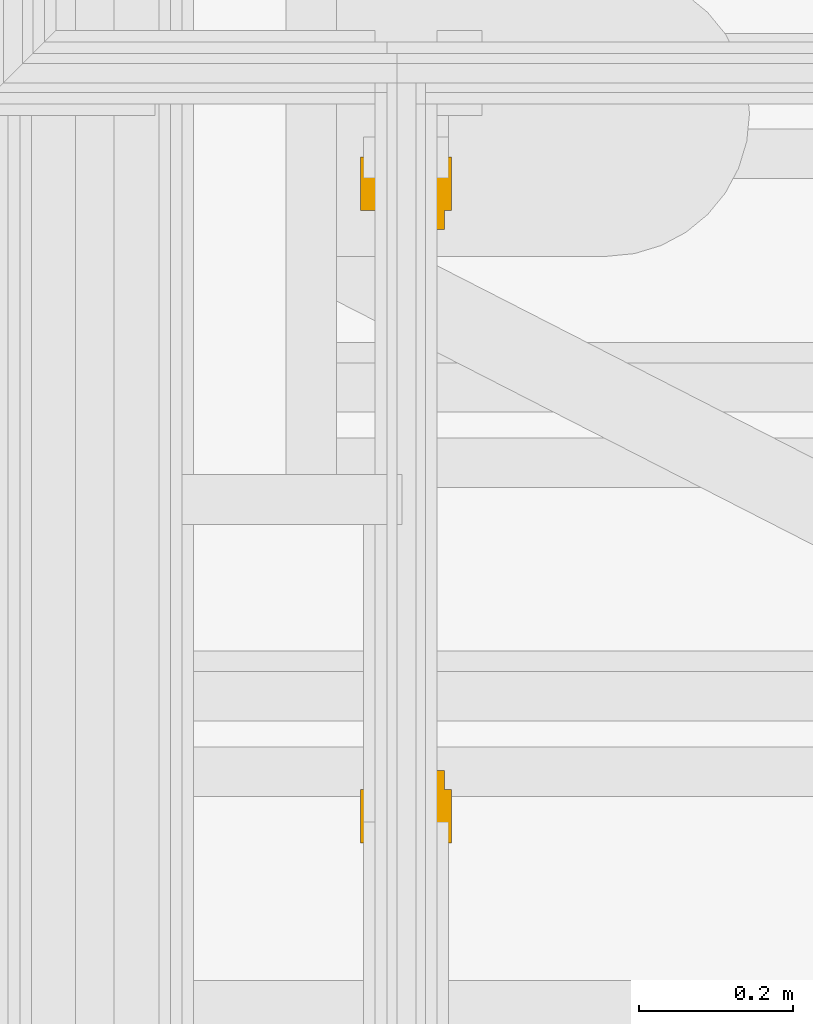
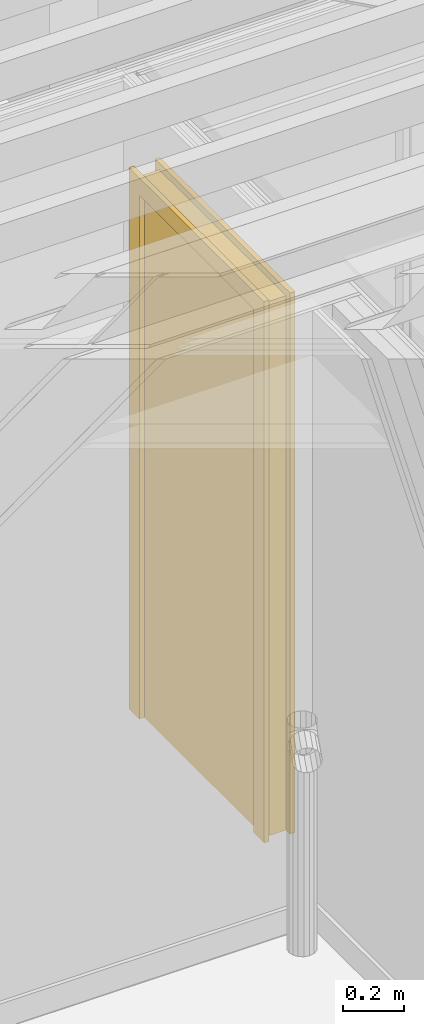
# One storey, part 128 of 183: 1 door.
"""IFC2X3 building model written with IfcOpenShell, lengths in metres."""

from ifc_helpers import new_model, entity, si_unit, converted_unit, derived_unit, money_unit, direction, frame, origin_with_axes, place, context, subcontext, project, spatial, faceted_brep, material, type_object, element, save


model = new_model("IFC2X3")

# Units and contexts
model_context = context("Model", 3, precision=1e-05, world=origin_with_axes(), true_north=direction((0.0, 1.0)))
body_context = subcontext(model_context, "Body", "Model", "MODEL_VIEW", scale=1.0)
ifc_project = project(units=[si_unit("LENGTHUNIT", "METRE"), si_unit("AREAUNIT", "SQUARE_METRE"), si_unit("VOLUMEUNIT", "CUBIC_METRE"), si_unit("ABSORBEDDOSEUNIT", "GRAY"), si_unit("AMOUNTOFSUBSTANCEUNIT", "MOLE"), si_unit("DOSEEQUIVALENTUNIT", "SIEVERT"), si_unit("ELECTRICCAPACITANCEUNIT", "FARAD"), si_unit("ELECTRICCHARGEUNIT", "COULOMB"), si_unit("ELECTRICCONDUCTANCEUNIT", "SIEMENS"), si_unit("ELECTRICCURRENTUNIT", "AMPERE"), si_unit("ELECTRICRESISTANCEUNIT", "OHM"), si_unit("ELECTRICVOLTAGEUNIT", "VOLT"), si_unit("ENERGYUNIT", "JOULE"), si_unit("FORCEUNIT", "NEWTON"), si_unit("FREQUENCYUNIT", "HERTZ"), si_unit("ILLUMINANCEUNIT", "LUX"), si_unit("INDUCTANCEUNIT", "HENRY"), si_unit("LUMINOUSFLUXUNIT", "LUMEN"), si_unit("LUMINOUSINTENSITYUNIT", "CANDELA"), si_unit("MAGNETICFLUXDENSITYUNIT", "TESLA"), si_unit("MAGNETICFLUXUNIT", "WEBER"), si_unit("MASSUNIT", "GRAM"), converted_unit("PLANEANGLEUNIT", "degree", entity("IfcReal", 0.0174532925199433), si_unit("PLANEANGLEUNIT", "RADIAN"), dimensions=[0, 0, 0, 0, 0, 0, 0]), si_unit("POWERUNIT", "WATT"), si_unit("PRESSUREUNIT", "PASCAL"), si_unit("RADIOACTIVITYUNIT", "BECQUEREL"), si_unit("SOLIDANGLEUNIT", "STERADIAN"), si_unit("THERMODYNAMICTEMPERATUREUNIT", "KELVIN"), si_unit("TIMEUNIT", "SECOND"), derived_unit("ACCELERATIONUNIT", [(si_unit("LENGTHUNIT", "METRE"), 1), (si_unit("TIMEUNIT", "SECOND"), -2)]), derived_unit("ANGULARVELOCITYUNIT", [(converted_unit("PLANEANGLEUNIT", "degree", entity("IfcReal", 0.0174532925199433), si_unit("PLANEANGLEUNIT", "RADIAN"), dimensions=[0, 0, 0, 0, 0, 0, 0]), 1), (si_unit("TIMEUNIT", "SECOND"), -1)]), derived_unit("CURVATUREUNIT", [(converted_unit("PLANEANGLEUNIT", "degree", entity("IfcReal", 0.0174532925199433), si_unit("PLANEANGLEUNIT", "RADIAN"), dimensions=[0, 0, 0, 0, 0, 0, 0]), 1), (si_unit("LENGTHUNIT", "METRE"), -1)]), derived_unit("DYNAMICVISCOSITYUNIT", [(si_unit("PRESSUREUNIT", "PASCAL"), 1), (si_unit("TIMEUNIT", "SECOND"), 1)]), derived_unit("HEATFLUXDENSITYUNIT", [(si_unit("POWERUNIT", "WATT"), 1), (si_unit("LENGTHUNIT", "METRE"), -2)]), derived_unit("HEATINGVALUEUNIT", [(si_unit("ENERGYUNIT", "JOULE"), 1), (si_unit("MASSUNIT", "GRAM"), -1)]), derived_unit("INTEGERCOUNTRATEUNIT", [(si_unit("TIMEUNIT", "SECOND"), -1)]), derived_unit("IONCONCENTRATIONUNIT", [(si_unit("MASSUNIT", "GRAM"), 1), (si_unit("VOLUMEUNIT", "CUBIC_METRE"), -1)]), derived_unit("ISOTHERMALMOISTURECAPACITYUNIT", [(si_unit("VOLUMEUNIT", "CUBIC_METRE"), 1), (si_unit("MASSUNIT", "GRAM"), -1)]), derived_unit("KINEMATICVISCOSITYUNIT", [(si_unit("AREAUNIT", "SQUARE_METRE"), 1), (si_unit("TIMEUNIT", "SECOND"), -1)]), derived_unit("LINEARFORCEUNIT", [(si_unit("FORCEUNIT", "NEWTON"), 1), (si_unit("LENGTHUNIT", "METRE"), -1)]), derived_unit("LINEARMOMENTUNIT", [(si_unit("FORCEUNIT", "NEWTON"), 1), (si_unit("LENGTHUNIT", "METRE"), -1)]), derived_unit("LINEARSTIFFNESSUNIT", [(si_unit("FORCEUNIT", "NEWTON"), 1), (si_unit("LENGTHUNIT", "METRE"), -1)]), derived_unit("LINEARVELOCITYUNIT", [(si_unit("LENGTHUNIT", "METRE"), 1), (si_unit("TIMEUNIT", "SECOND"), -1)]), derived_unit("LUMINOUSINTENSITYDISTRIBUTIONUNIT", [(si_unit("LUMINOUSINTENSITYUNIT", "CANDELA"), 1), (si_unit("LUMINOUSFLUXUNIT", "LUMEN"), -1)]), derived_unit("MASSDENSITYUNIT", [(si_unit("MASSUNIT", "GRAM"), 1), (si_unit("VOLUMEUNIT", "CUBIC_METRE"), -1)]), derived_unit("MASSFLOWRATEUNIT", [(si_unit("MASSUNIT", "GRAM"), 1), (si_unit("TIMEUNIT", "SECOND"), -1)]), derived_unit("MASSPERLENGTHUNIT", [(si_unit("MASSUNIT", "GRAM"), 1), (si_unit("LENGTHUNIT", "METRE"), -1)]), derived_unit("MODULUSOFELASTICITYUNIT", [(si_unit("FORCEUNIT", "NEWTON"), 1), (si_unit("AREAUNIT", "SQUARE_METRE"), -1)]), derived_unit("MODULUSOFLINEARSUBGRADEREACTIONUNIT", [(si_unit("FORCEUNIT", "NEWTON"), 1), (si_unit("LENGTHUNIT", "METRE"), -2)]), derived_unit("MODULUSOFROTATIONALSUBGRADEREACTIONUNIT", [(si_unit("FORCEUNIT", "NEWTON"), 1), (si_unit("LENGTHUNIT", "METRE"), 1)]), derived_unit("MODULUSOFSUBGRADEREACTIONUNIT", [(si_unit("FORCEUNIT", "NEWTON"), 1), (si_unit("VOLUMEUNIT", "CUBIC_METRE"), -1)]), derived_unit("MOISTUREDIFFUSIVITYUNIT", [(si_unit("VOLUMEUNIT", "CUBIC_METRE"), 1), (si_unit("TIMEUNIT", "SECOND"), -1)]), derived_unit("MOLECULARWEIGHTUNIT", [(si_unit("MASSUNIT", "GRAM"), 1), (si_unit("AMOUNTOFSUBSTANCEUNIT", "MOLE"), -1)]), derived_unit("PLANARFORCEUNIT", [(si_unit("FORCEUNIT", "NEWTON"), 1), (si_unit("LENGTHUNIT", "METRE"), -2)]), derived_unit("ROTATIONALFREQUENCYUNIT", [(si_unit("TIMEUNIT", "SECOND"), -1)]), derived_unit("ROTATIONALMASSUNIT", [(si_unit("MASSUNIT", "GRAM"), 1), (si_unit("LENGTHUNIT", "METRE"), 2)]), derived_unit("ROTATIONALSTIFFNESSUNIT", [(si_unit("FORCEUNIT", "NEWTON"), 1), (si_unit("LENGTHUNIT", "METRE"), 1), (converted_unit("PLANEANGLEUNIT", "degree", entity("IfcReal", 0.0174532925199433), si_unit("PLANEANGLEUNIT", "RADIAN"), dimensions=[0, 0, 0, 0, 0, 0, 0]), -1)]), derived_unit("SECTIONAREAINTEGRALUNIT", [(si_unit("LENGTHUNIT", "METRE"), 5)]), derived_unit("SECTIONMODULUSUNIT", [(si_unit("LENGTHUNIT", "METRE"), 3)]), derived_unit("SHEARMODULUSUNIT", [(si_unit("FORCEUNIT", "NEWTON"), 1), (si_unit("AREAUNIT", "SQUARE_METRE"), -1)]), derived_unit("SOUNDPOWERUNIT", [(si_unit("ENERGYUNIT", "JOULE"), 1), (si_unit("TIMEUNIT", "SECOND"), -1)]), derived_unit("SPECIFICHEATCAPACITYUNIT", [(si_unit("FORCEUNIT", "NEWTON"), 1), (si_unit("MASSUNIT", "GRAM"), -1), (si_unit("THERMODYNAMICTEMPERATUREUNIT", "KELVIN"), -1)]), derived_unit("TEMPERATUREGRADIENTUNIT", [(si_unit("THERMODYNAMICTEMPERATUREUNIT", "KELVIN"), 1), (si_unit("LENGTHUNIT", "METRE"), -1)]), derived_unit("THERMALADMITTANCEUNIT", [(si_unit("POWERUNIT", "WATT"), 1), (si_unit("AREAUNIT", "SQUARE_METRE"), -1), (si_unit("THERMODYNAMICTEMPERATUREUNIT", "KELVIN"), -1)]), derived_unit("THERMALCONDUCTANCEUNIT", [(si_unit("POWERUNIT", "WATT"), 1), (si_unit("LENGTHUNIT", "METRE"), -1), (si_unit("THERMODYNAMICTEMPERATUREUNIT", "KELVIN"), -1)]), derived_unit("THERMALEXPANSIONCOEFFICIENTUNIT", [(si_unit("THERMODYNAMICTEMPERATUREUNIT", "KELVIN"), -1)]), derived_unit("THERMALRESISTANCEUNIT", [(si_unit("AREAUNIT", "SQUARE_METRE"), 1), (si_unit("POWERUNIT", "WATT"), -1)]), derived_unit("THERMALTRANSMITTANCEUNIT", [(si_unit("POWERUNIT", "WATT"), 1), (si_unit("AREAUNIT", "SQUARE_METRE"), -1), (si_unit("THERMODYNAMICTEMPERATUREUNIT", "KELVIN"), -1)]), derived_unit("TORQUEUNIT", [(si_unit("FORCEUNIT", "NEWTON"), 1), (si_unit("LENGTHUNIT", "METRE"), 1)]), derived_unit("VAPORPERMEABILITYUNIT", [(si_unit("MASSUNIT", "GRAM"), 1), (si_unit("TIMEUNIT", "SECOND"), -1)]), derived_unit("VOLUMETRICFLOWRATEUNIT", [(si_unit("VOLUMEUNIT", "CUBIC_METRE"), 1), (si_unit("TIMEUNIT", "SECOND"), -1)]), derived_unit("WARPINGCONSTANTUNIT", [(si_unit("LENGTHUNIT", "METRE"), 6)]), derived_unit("WARPINGMOMENTUNIT", [(si_unit("FORCEUNIT", "NEWTON"), 1), (si_unit("LENGTHUNIT", "METRE"), 2)]), money_unit("GBP")], contexts=[model_context])

# Site, building, storey, space
site_placement = place(None, origin_with_axes())
site = spatial("IfcSite", under=ifc_project, at=site_placement, Name="Site", CompositionType="ELEMENT")
building_placement = place(site_placement, origin_with_axes())
building = spatial("IfcBuilding", under=site, at=building_placement, Name="Building01", CompositionType="ELEMENT")
storey_placement = place(building_placement, frame((0.0, 0.0, 5.15), z_axis=(0.0, 0.0, 1.0), x_axis=(1.0, 0.0, 0.0)))
storey = spatial("IfcBuildingStorey", under=building, at=storey_placement, Name="1F", CompositionType="ELEMENT", Elevation=5.15)
space_placement = place(storey_placement, frame((16.03844, 8.82, 9.81), z_axis=(0.0, 0.0, 1.0), x_axis=(0.0, -1.0, 0.0)))
space = spatial("IfcSpace", under=storey, at=space_placement, Name="23", CompositionType="ELEMENT", InteriorOrExteriorSpace="NOTDEFINED")

# Door
ifc_material = material(Name="A_BSUK_Doors")
door_style = type_object("IfcDoorStyle", Name="A-Doors-SingleFlush", ConstructionType="USERDEFINED", OperationType="SINGLE_SWING_RIGHT", ParameterTakesPrecedence=False, Sizeable=False)
door_placement = place(storey_placement, frame((15.95844, 9.211939, 9.78), z_axis=(0.0, 0.0, 1.0), x_axis=(0.0, 1.0, 0.0)))
element("IfcDoor", 1, at=door_placement, inside=space, type_object=door_style, material=ifc_material, Name="4.05", ObjectType="A-Doors-SingleFlush", OverallHeight=2.16900000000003, OverallWidth=0.888000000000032, context=body_context, shape_type="Brep", body=[
    faceted_brep([(0.75, -0.099, 0.0), (0.819, -0.099, 0.0), (0.819, -0.099, 2.169), (-0.069, -0.099, 2.169), (-0.069, -0.099, 0.0), (0.0, -0.099, 0.0), (0.0, -0.099, 2.1), (0.75, -0.099, 2.1), (-0.069, -0.08, 0.0), (-0.069, -0.08, 2.169), (0.819, -0.08, 2.169), (0.819, -0.08, 0.0), (0.75, 0.019, 0.0), (0.819, 0.019, 0.0), (0.819, 0.0, 0.0), (0.792, 0.0, 0.0), (0.792, -0.08, 0.0), (0.75, 0.019, 2.1), (0.0, 0.019, 2.1), (0.0, 0.019, 0.0), (-0.069, 0.019, 0.0), (-0.069, 0.019, 2.169), (0.819, 0.019, 2.169), (0.819, 0.0, 2.169), (0.792, -0.08, 2.142), (0.792, 0.0, 2.142), (-0.042, -0.08, 2.142), (-0.042, 0.0, 2.142), (-0.042, -0.08, 0.0), (-0.042, 0.0, 0.0), (-0.069, 0.0, 2.169), (-0.069, 0.0, 0.0)], [[[0, 1, 2, 3, 4, 5, 6, 7]], [[8, 4, 3, 9]], [[10, 2, 1, 11]], [[9, 3, 2, 10]], [[12, 13, 14, 15, 16, 11, 1, 0]], [[7, 17, 12, 0]], [[6, 18, 17, 7]], [[18, 19, 20, 21, 22, 13, 12, 17]], [[5, 19, 18, 6]], [[13, 22, 23, 14]], [[24, 16, 15, 25]], [[26, 24, 25, 27]], [[11, 16, 24, 26, 28, 8, 9, 10]], [[27, 29, 28, 26]], [[25, 15, 14, 23, 30, 31, 29, 27]], [[5, 4, 8, 28, 29, 31, 20, 19]], [[30, 21, 20, 31]], [[23, 22, 21, 30]]]),
    faceted_brep([(0.0, -0.09, 2.1), (0.0, -0.04, 2.1), (0.0, -0.04, 0.0), (0.0, -0.09, 0.0), (0.725, -0.09, 0.0), (0.75, -0.09, 0.0), (0.75, -0.09, 2.1), (0.025, -0.09, 0.0), (0.025, -0.09, 2.075), (0.725, -0.09, 2.075), (0.725, -0.04, 0.0), (0.75, -0.04, 0.0), (0.75, -0.04, 2.1), (0.025, -0.04, 2.075), (0.025, -0.04, 0.0), (0.725, -0.04, 2.075)], [[[0, 1, 2, 3]], [[4, 5, 6, 0, 3, 7, 8, 9]], [[10, 11, 5, 4]], [[6, 12, 1, 0]], [[5, 11, 12, 6]], [[13, 14, 2, 1, 12, 11, 10, 15]], [[7, 14, 13, 8]], [[7, 3, 2, 14]], [[9, 15, 10, 4]], [[8, 13, 15, 9]]]),
    faceted_brep([(0.75, -0.04, 0.0), (0.75, 0.0, 0.0), (0.75, 0.0, 2.1), (0.75, -0.04, 2.1), (0.0, -0.04, 2.1), (0.0, 0.0, 2.1), (0.0, 0.0, 0.0), (0.0, -0.04, 0.0)], [[[0, 1, 2, 3]], [[4, 5, 6, 7]], [[7, 6, 1, 0]], [[3, 4, 7, 0]], [[3, 2, 5, 4]], [[1, 6, 5, 2]]]),
])

save(model, "model.ifc")
